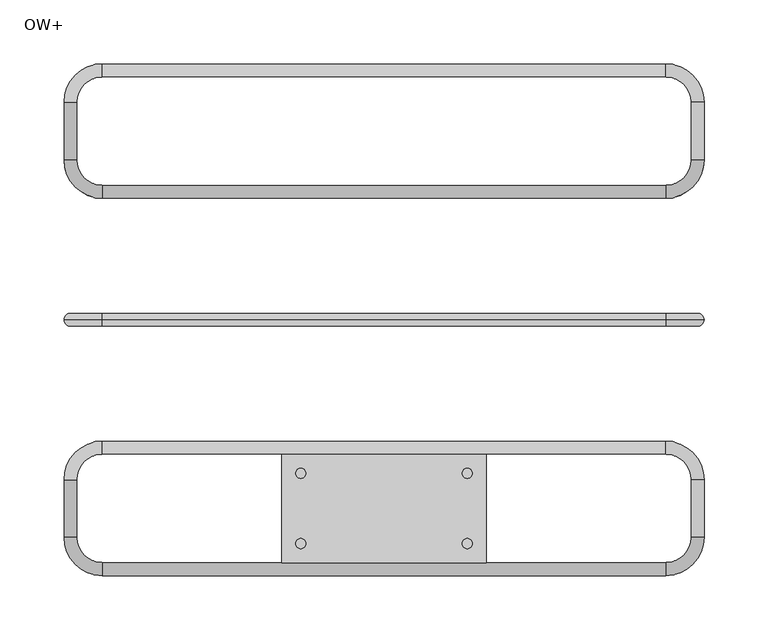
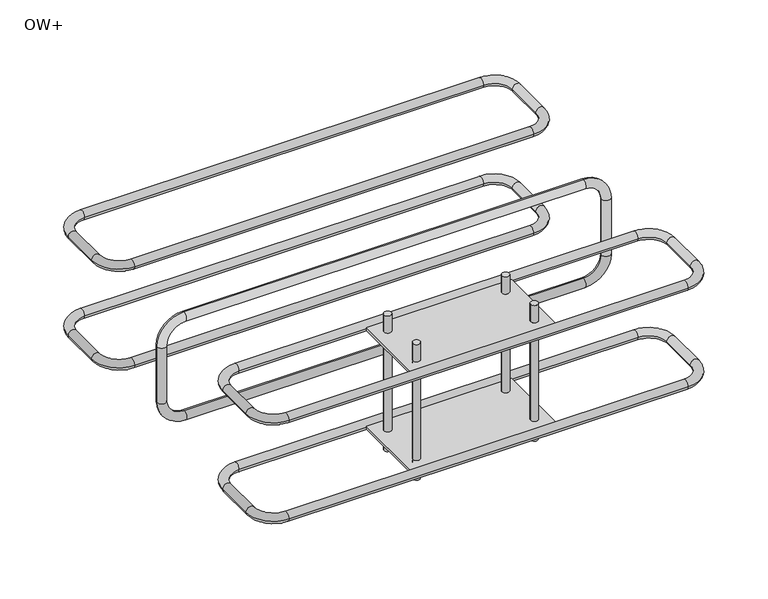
"""IFC4 building model written with IfcOpenShell, lengths in millimetres: fastener geometry, ACINOXplus_Typenreihe_UW-OW : OW+."""

from ifc_helpers import new_model, si_unit, point, frame, origin, place, context, project, spatial, circle_curve, ellipse_curve, trimmed, source, transform, mapped, element, save
from ifc_brep_helpers import plane_surface, cylinder_surface, revolved_surface, advanced_brep


def ow_7e9b7258(model_context):
    return source(origin(), model_context, "Body", "AdvancedBrep", [
        advanced_brep(
        [(220.0, 0.0, -47.5), (220.0, 0.0, -37.5), (-220.0, 0.0, -37.5), (-220.0, 0.0, -47.5), (-240.0, 0.0, -67.5), (-250.0, 0.0, -67.5), (-250.0, 0.0, -132.5), (-240.0, 0.0, -132.5), (-220.0, 0.0, -152.5), (-220.0, 0.0, -162.5), (220.0, 0.0, -162.5), (220.0, 0.0, -152.5), (240.0, 0.0, -132.5), (250.0, 0.0, -132.5), (250.0, 0.0, -67.5), (240.0, 0.0, -67.5)],
        [
            (0, 1, circle_curve(frame((220.0, 0.0, -42.5), z_axis=(-1.0, 0.0, 0.0), x_axis=(0.0, 0.0, -1.0)), 5.0)),
            (1, 2),
            (2, 3, circle_curve(frame((-220.0, 0.0, -42.5), z_axis=(1.0, 0.0, 0.0), x_axis=(0.0, 0.0, -1.0)), 5.0)),
            (3, 0),
            (1, 0, circle_curve(frame((220.0, 0.0, -42.5), z_axis=(-1.0, 0.0, 0.0), x_axis=(0.0, 0.0, -1.0)), 5.0)),
            (3, 2, circle_curve(frame((-220.0, 0.0, -42.5), z_axis=(1.0, 0.0, 0.0), x_axis=(0.0, 0.0, -1.0)), 5.0)),
            (4, 3, circle_curve(frame((-220.0, 0.0, -67.5), z_axis=(0.0, 1.0, 0.0), x_axis=(0.0, 0.0, 1.0)), 20.0)),
            (2, 5, circle_curve(frame((-220.0, 0.0, -67.5), z_axis=(0.0, -1.0, 0.0), x_axis=(0.0, 0.0, 1.0)), 30.0)),
            (5, 4, circle_curve(frame((-245.0, 0.0, -67.5), z_axis=(0.0, 0.0, 1.0), x_axis=(1.0, 0.0, 0.0)), 5.0)),
            (4, 5, circle_curve(frame((-245.0, 0.0, -67.5), z_axis=(0.0, 0.0, 1.0), x_axis=(1.0, 0.0, 0.0)), 5.0)),
            (5, 6),
            (6, 7, circle_curve(frame((-245.0, 0.0, -132.5), z_axis=(0.0, 0.0, 1.0), x_axis=(1.0, 0.0, 0.0)), 5.0)),
            (7, 4),
            (7, 6, circle_curve(frame((-245.0, 0.0, -132.5), z_axis=(0.0, 0.0, 1.0), x_axis=(1.0, 0.0, 0.0)), 5.0)),
            (8, 7, circle_curve(frame((-220.0, 0.0, -132.5), z_axis=(0.0, 1.0, 0.0), x_axis=(-1.0, 0.0, 0.0)), 20.0)),
            (6, 9, circle_curve(frame((-220.0, 0.0, -132.5), z_axis=(0.0, -1.0, 0.0), x_axis=(-1.0, 0.0, 0.0)), 30.0)),
            (9, 8, circle_curve(frame((-220.0, 0.0, -157.5), z_axis=(-1.0, 0.0, 0.0), x_axis=(0.0, 0.0, 1.0)), 5.0)),
            (8, 9, circle_curve(frame((-220.0, 0.0, -157.5), z_axis=(-1.0, 0.0, 0.0), x_axis=(0.0, 0.0, 1.0)), 5.0)),
            (9, 10),
            (10, 11, circle_curve(frame((220.0, 0.0, -157.5), z_axis=(-1.0, 0.0, 0.0), x_axis=(0.0, 0.0, 1.0)), 5.0)),
            (11, 8),
            (11, 10, circle_curve(frame((220.0, 0.0, -157.5), z_axis=(-1.0, 0.0, 0.0), x_axis=(0.0, 0.0, 1.0)), 5.0)),
            (12, 11, circle_curve(frame((220.0, 0.0, -132.5), z_axis=(0.0, 1.0, 0.0), x_axis=(0.0, 0.0, -1.0)), 20.0)),
            (10, 13, circle_curve(frame((220.0, 0.0, -132.5), z_axis=(0.0, -1.0, 0.0), x_axis=(0.0, 0.0, -1.0)), 30.0)),
            (13, 12, circle_curve(frame((245.0, 0.0, -132.5), z_axis=(0.0, 0.0, -1.0), x_axis=(-1.0, 0.0, 0.0)), 5.0)),
            (12, 13, circle_curve(frame((245.0, 0.0, -132.5), z_axis=(0.0, 0.0, -1.0), x_axis=(-1.0, 0.0, 0.0)), 5.0)),
            (13, 14),
            (14, 15, circle_curve(frame((245.0, 0.0, -67.5), z_axis=(0.0, 0.0, -1.0), x_axis=(-1.0, 0.0, 0.0)), 5.0)),
            (15, 12),
            (15, 14, circle_curve(frame((245.0, 0.0, -67.5), z_axis=(0.0, 0.0, -1.0), x_axis=(-1.0, 0.0, 0.0)), 5.0)),
            (0, 15, circle_curve(frame((220.0, 0.0, -67.5), z_axis=(0.0, 1.0, 0.0), x_axis=(1.0, 0.0, 0.0)), 20.0)),
            (14, 1, circle_curve(frame((220.0, 0.0, -67.5), z_axis=(0.0, -1.0, 0.0), x_axis=(1.0, 0.0, 0.0)), 30.0)),
        ],
        [
            cylinder_surface(frame((220.0, 0.0, -42.5), z_axis=(1.0, 0.0, 0.0), x_axis=(0.0, 0.0, -1.0)), 5.0),
            revolved_surface(trimmed(ellipse_curve(frame((-220.0, 0.0, -42.5), z_axis=(1.0, 0.0, 0.0), x_axis=(0.0, 0.0, -1.0)), 5.0, 5.0), [point((-220.0, 0.0, -37.5))], [point((-220.0, 0.0, -47.5))], True, "CARTESIAN"), (-220.0, 0.0, -67.5), (0.0, -1.0, 0.0)),
            revolved_surface(trimmed(ellipse_curve(frame((-220.0, 0.0, -42.5), z_axis=(1.0, 0.0, 0.0), x_axis=(0.0, 0.0, -1.0)), 5.0, 5.0), [point((-220.0, 0.0, -47.5))], [point((-220.0, 0.0, -37.5))], True, "CARTESIAN"), (-220.0, 0.0, -67.5), (0.0, -1.0, 0.0)),
            cylinder_surface(frame((-245.0, 0.0, -67.5), z_axis=(0.0, 0.0, 1.0), x_axis=(1.0, 0.0, 0.0)), 5.0),
            revolved_surface(trimmed(ellipse_curve(frame((-245.0, 0.0, -132.5), z_axis=(0.0, 0.0, 1.0), x_axis=(1.0, 0.0, 0.0)), 5.0, 5.0), [point((-250.0, 0.0, -132.5))], [point((-240.0, 0.0, -132.5))], True, "CARTESIAN"), (-220.0, 0.0, -132.5), (0.0, -1.0, 0.0)),
            revolved_surface(trimmed(ellipse_curve(frame((-245.0, 0.0, -132.5), z_axis=(0.0, 0.0, 1.0), x_axis=(1.0, 0.0, 0.0)), 5.0, 5.0), [point((-240.0, 0.0, -132.5))], [point((-250.0, 0.0, -132.5))], True, "CARTESIAN"), (-220.0, 0.0, -132.5), (0.0, -1.0, 0.0)),
            cylinder_surface(frame((-220.0, 0.0, -157.5), z_axis=(-1.0, 0.0, 0.0), x_axis=(0.0, 0.0, 1.0)), 5.0),
            revolved_surface(trimmed(ellipse_curve(frame((220.0, 0.0, -157.5), z_axis=(-1.0, 0.0, 0.0), x_axis=(0.0, 0.0, 1.0)), 5.0, 5.0), [point((220.0, 0.0, -162.5))], [point((220.0, 0.0, -152.5))], True, "CARTESIAN"), (220.0, 0.0, -132.5), (0.0, -1.0, 0.0)),
            revolved_surface(trimmed(ellipse_curve(frame((220.0, 0.0, -157.5), z_axis=(-1.0, 0.0, 0.0), x_axis=(0.0, 0.0, 1.0)), 5.0, 5.0), [point((220.0, 0.0, -152.5))], [point((220.0, 0.0, -162.5))], True, "CARTESIAN"), (220.0, 0.0, -132.5), (0.0, -1.0, 0.0)),
            cylinder_surface(frame((245.0, 0.0, -132.5), z_axis=(0.0, 0.0, -1.0), x_axis=(-1.0, 0.0, 0.0)), 5.0),
            revolved_surface(trimmed(ellipse_curve(frame((245.0, 0.0, -67.5), z_axis=(0.0, 0.0, -1.0), x_axis=(-1.0, 0.0, 0.0)), 5.0, 5.0), [point((250.0, 0.0, -67.5))], [point((240.0, 0.0, -67.5))], True, "CARTESIAN"), (220.0, 0.0, -67.5), (0.0, -1.0, 0.0)),
            revolved_surface(trimmed(ellipse_curve(frame((245.0, 0.0, -67.5), z_axis=(0.0, 0.0, -1.0), x_axis=(-1.0, 0.0, 0.0)), 5.0, 5.0), [point((240.0, 0.0, -67.5))], [point((250.0, 0.0, -67.5))], True, "CARTESIAN"), (220.0, 0.0, -67.5), (0.0, -1.0, 0.0)),
        ],
        [
            (0, [[1, 2, 3, 4]]),
            (0, [[5, -4, 6, -2]]),
            (1, [[7, -3, 8, 9]]),
            (2, [[-8, -6, -7, 10]]),
            (3, [[-9, 11, 12, 13]]),
            (3, [[-10, -13, 14, -11]]),
            (4, [[15, -12, 16, 17]]),
            (5, [[-16, -14, -15, 18]]),
            (6, [[-17, 19, 20, 21]]),
            (6, [[-18, -21, 22, -19]]),
            (7, [[23, -20, 24, 25]]),
            (8, [[-24, -22, -23, 26]]),
            (9, [[-25, 27, 28, 29]]),
            (9, [[-26, -29, 30, -27]]),
            (10, [[31, -28, 32, -1]]),
            (11, [[-32, -30, -31, -5]]),
        ],
    ),
        advanced_brep(
        [(-220.0, -190.0, -42.5), (-240.0, -170.0, -42.5), (-250.0, -170.0, -42.5), (-220.0, -200.0, -42.5), (220.0, -200.0, -42.5), (220.0, -190.0, -42.5), (240.0, -170.0, -42.5), (250.0, -170.0, -42.5), (250.0, -125.0, -42.5), (240.0, -125.0, -42.5), (220.0, -105.0, -42.5), (220.0, -95.0, -42.5), (-220.0, -95.0, -42.5), (-220.0, -105.0, -42.5), (-240.0, -125.0, -42.5), (-250.0, -125.0, -42.5)],
        [
            (0, 1, circle_curve(frame((-220.0, -170.0, -42.5), z_axis=(0.0, 0.0, -1.0), x_axis=(-1.0, 0.0, 0.0)), 20.0)),
            (1, 2, circle_curve(frame((-245.0, -170.0, -42.5), z_axis=(0.0, -1.0, 0.0), x_axis=(1.0, 0.0, 0.0)), 5.0)),
            (2, 3, circle_curve(frame((-220.0, -170.0, -42.5), z_axis=(0.0, 0.0, 1.0), x_axis=(-1.0, 0.0, 0.0)), 30.0)),
            (3, 0, circle_curve(frame((-220.0, -195.0, -42.5), z_axis=(-1.0, 0.0, 0.0), x_axis=(0.0, 1.0, 0.0)), 5.0)),
            (2, 1, circle_curve(frame((-245.0, -170.0, -42.5), z_axis=(0.0, -1.0, 0.0), x_axis=(1.0, 0.0, 0.0)), 5.0)),
            (0, 3, circle_curve(frame((-220.0, -195.0, -42.5), z_axis=(-1.0, 0.0, 0.0), x_axis=(0.0, 1.0, 0.0)), 5.0)),
            (3, 4),
            (4, 5, circle_curve(frame((220.0, -195.0, -42.5), z_axis=(-1.0, 0.0, 0.0), x_axis=(0.0, 1.0, 0.0)), 5.0)),
            (5, 0),
            (5, 4, circle_curve(frame((220.0, -195.0, -42.5), z_axis=(-1.0, 0.0, 0.0), x_axis=(0.0, 1.0, 0.0)), 5.0)),
            (6, 5, circle_curve(frame((220.0, -170.0, -42.5), z_axis=(0.0, 0.0, -1.0), x_axis=(0.0, -1.0, 0.0)), 20.0)),
            (4, 7, circle_curve(frame((220.0, -170.0, -42.5), z_axis=(0.0, 0.0, 1.0), x_axis=(0.0, -1.0, 0.0)), 30.0)),
            (7, 6, circle_curve(frame((245.0, -170.0, -42.5), z_axis=(0.0, -1.0, 0.0), x_axis=(-1.0, 0.0, 0.0)), 5.0)),
            (6, 7, circle_curve(frame((245.0, -170.0, -42.5), z_axis=(0.0, -1.0, 0.0), x_axis=(-1.0, 0.0, 0.0)), 5.0)),
            (7, 8),
            (8, 9, circle_curve(frame((245.0, -125.0, -42.5), z_axis=(0.0, -1.0, 0.0), x_axis=(-1.0, 0.0, 0.0)), 5.0)),
            (9, 6),
            (9, 8, circle_curve(frame((245.0, -125.0, -42.5), z_axis=(0.0, -1.0, 0.0), x_axis=(-1.0, 0.0, 0.0)), 5.0)),
            (10, 9, circle_curve(frame((220.0, -125.0, -42.5), z_axis=(0.0, 0.0, -1.0), x_axis=(1.0, 0.0, 0.0)), 20.0)),
            (8, 11, circle_curve(frame((220.0, -125.0, -42.5), z_axis=(0.0, 0.0, 1.0), x_axis=(1.0, 0.0, 0.0)), 30.0)),
            (11, 10, circle_curve(frame((220.0, -100.0, -42.5), z_axis=(1.0, 0.0, 0.0), x_axis=(0.0, -1.0, 0.0)), 5.0)),
            (10, 11, circle_curve(frame((220.0, -100.0, -42.5), z_axis=(1.0, 0.0, 0.0), x_axis=(0.0, -1.0, 0.0)), 5.0)),
            (11, 12),
            (12, 13, circle_curve(frame((-220.0, -100.0, -42.5), z_axis=(1.0, 0.0, 0.0), x_axis=(0.0, -1.0, 0.0)), 5.0)),
            (13, 10),
            (13, 12, circle_curve(frame((-220.0, -100.0, -42.5), z_axis=(1.0, 0.0, 0.0), x_axis=(0.0, -1.0, 0.0)), 5.0)),
            (14, 13, circle_curve(frame((-220.0, -125.0, -42.5), z_axis=(0.0, 0.0, -1.0), x_axis=(0.0, 1.0, 0.0)), 20.0)),
            (12, 15, circle_curve(frame((-220.0, -125.0, -42.5), z_axis=(0.0, 0.0, 1.0), x_axis=(0.0, 1.0, 0.0)), 30.0)),
            (15, 14, circle_curve(frame((-245.0, -125.0, -42.5), z_axis=(0.0, 1.0, 0.0), x_axis=(1.0, 0.0, 0.0)), 5.0)),
            (14, 15, circle_curve(frame((-245.0, -125.0, -42.5), z_axis=(0.0, 1.0, 0.0), x_axis=(1.0, 0.0, 0.0)), 5.0)),
            (15, 2),
            (1, 14),
        ],
        [
            revolved_surface(trimmed(ellipse_curve(frame((-245.0, -170.0, -42.5), z_axis=(0.0, 1.0, 0.0), x_axis=(1.0, 0.0, 0.0)), 5.0, 5.0), [point((-250.0, -170.0, -42.5))], [point((-240.0, -170.0, -42.5))], True, "CARTESIAN"), (-220.0, -170.0, -42.5), (0.0, 0.0, 1.0)),
            revolved_surface(trimmed(ellipse_curve(frame((-245.0, -170.0, -42.5), z_axis=(0.0, 1.0, 0.0), x_axis=(1.0, 0.0, 0.0)), 5.0, 5.0), [point((-240.0, -170.0, -42.5))], [point((-250.0, -170.0, -42.5))], True, "CARTESIAN"), (-220.0, -170.0, -42.5), (0.0, 0.0, 1.0)),
            cylinder_surface(frame((-220.0, -195.0, -42.5), z_axis=(-1.0, 0.0, 0.0), x_axis=(0.0, 1.0, 0.0)), 5.0),
            revolved_surface(trimmed(ellipse_curve(frame((220.0, -195.0, -42.5), z_axis=(-1.0, 0.0, 0.0), x_axis=(0.0, 1.0, 0.0)), 5.0, 5.0), [point((220.0, -200.0, -42.5))], [point((220.0, -190.0, -42.5))], True, "CARTESIAN"), (220.0, -170.0, -42.5), (0.0, 0.0, 1.0)),
            revolved_surface(trimmed(ellipse_curve(frame((220.0, -195.0, -42.5), z_axis=(-1.0, 0.0, 0.0), x_axis=(0.0, 1.0, 0.0)), 5.0, 5.0), [point((220.0, -190.0, -42.5))], [point((220.0, -200.0, -42.5))], True, "CARTESIAN"), (220.0, -170.0, -42.5), (0.0, 0.0, 1.0)),
            cylinder_surface(frame((245.0, -170.0, -42.5), z_axis=(0.0, -1.0, 0.0), x_axis=(-1.0, 0.0, 0.0)), 5.0),
            revolved_surface(trimmed(ellipse_curve(frame((245.0, -125.0, -42.5), z_axis=(0.0, -1.0, 0.0), x_axis=(-1.0, 0.0, 0.0)), 5.0, 5.0), [point((250.0, -125.0, -42.5))], [point((240.0, -125.0, -42.5))], True, "CARTESIAN"), (220.0, -125.0, -42.5), (0.0, 0.0, 1.0)),
            revolved_surface(trimmed(ellipse_curve(frame((245.0, -125.0, -42.5), z_axis=(0.0, -1.0, 0.0), x_axis=(-1.0, 0.0, 0.0)), 5.0, 5.0), [point((240.0, -125.0, -42.5))], [point((250.0, -125.0, -42.5))], True, "CARTESIAN"), (220.0, -125.0, -42.5), (0.0, 0.0, 1.0)),
            cylinder_surface(frame((220.0, -100.0, -42.5), z_axis=(1.0, 0.0, 0.0), x_axis=(0.0, -1.0, 0.0)), 5.0),
            revolved_surface(trimmed(ellipse_curve(frame((-220.0, -100.0, -42.5), z_axis=(1.0, 0.0, 0.0), x_axis=(0.0, -1.0, 0.0)), 5.0, 5.0), [point((-220.0, -95.0, -42.5))], [point((-220.0, -105.0, -42.5))], True, "CARTESIAN"), (-220.0, -125.0, -42.5), (0.0, 0.0, 1.0)),
            revolved_surface(trimmed(ellipse_curve(frame((-220.0, -100.0, -42.5), z_axis=(1.0, 0.0, 0.0), x_axis=(0.0, -1.0, 0.0)), 5.0, 5.0), [point((-220.0, -105.0, -42.5))], [point((-220.0, -95.0, -42.5))], True, "CARTESIAN"), (-220.0, -125.0, -42.5), (0.0, 0.0, 1.0)),
            cylinder_surface(frame((-245.0, -125.0, -42.5), z_axis=(0.0, 1.0, 0.0), x_axis=(1.0, 0.0, 0.0)), 5.0),
        ],
        [
            (0, [[1, 2, 3, 4]]),
            (1, [[-3, 5, -1, 6]]),
            (2, [[-4, 7, 8, 9]]),
            (2, [[-6, -9, 10, -7]]),
            (3, [[11, -8, 12, 13]]),
            (4, [[-12, -10, -11, 14]]),
            (5, [[-13, 15, 16, 17]]),
            (5, [[-14, -17, 18, -15]]),
            (6, [[19, -16, 20, 21]]),
            (7, [[-20, -18, -19, 22]]),
            (8, [[-21, 23, 24, 25]]),
            (8, [[-22, -25, 26, -23]]),
            (9, [[27, -24, 28, 29]]),
            (10, [[-28, -26, -27, 30]]),
            (11, [[-29, 31, -2, 32]]),
            (11, [[-30, -32, -5, -31]]),
        ],
    ),
        advanced_brep(
        [(-220.0, -190.0, -157.5), (-240.0, -170.0, -157.5), (-250.0, -170.0, -157.5), (-220.0, -200.0, -157.5), (220.0, -200.0, -157.5), (220.0, -190.0, -157.5), (240.0, -170.0, -157.5), (250.0, -170.0, -157.5), (250.0, -125.0, -157.5), (240.0, -125.0, -157.5), (220.0, -105.0, -157.5), (220.0, -95.0, -157.5), (-220.0, -95.0, -157.5), (-220.0, -105.0, -157.5), (-240.0, -125.0, -157.5), (-250.0, -125.0, -157.5)],
        [
            (0, 1, circle_curve(frame((-220.0, -170.0, -157.5), z_axis=(0.0, 0.0, -1.0), x_axis=(-1.0, 0.0, 0.0)), 20.0)),
            (1, 2, circle_curve(frame((-245.0, -170.0, -157.5), z_axis=(0.0, -1.0, 0.0), x_axis=(1.0, 0.0, 0.0)), 5.0)),
            (2, 3, circle_curve(frame((-220.0, -170.0, -157.5), z_axis=(0.0, 0.0, 1.0), x_axis=(-1.0, 0.0, 0.0)), 30.0)),
            (3, 0, circle_curve(frame((-220.0, -195.0, -157.5), z_axis=(-1.0, 0.0, 0.0), x_axis=(0.0, 1.0, 0.0)), 5.0)),
            (2, 1, circle_curve(frame((-245.0, -170.0, -157.5), z_axis=(0.0, -1.0, 0.0), x_axis=(1.0, 0.0, 0.0)), 5.0)),
            (0, 3, circle_curve(frame((-220.0, -195.0, -157.5), z_axis=(-1.0, 0.0, 0.0), x_axis=(0.0, 1.0, 0.0)), 5.0)),
            (3, 4),
            (4, 5, circle_curve(frame((220.0, -195.0, -157.5), z_axis=(-1.0, 0.0, 0.0), x_axis=(0.0, 1.0, 0.0)), 5.0)),
            (5, 0),
            (5, 4, circle_curve(frame((220.0, -195.0, -157.5), z_axis=(-1.0, 0.0, 0.0), x_axis=(0.0, 1.0, 0.0)), 5.0)),
            (6, 5, circle_curve(frame((220.0, -170.0, -157.5), z_axis=(0.0, 0.0, -1.0), x_axis=(0.0, -1.0, 0.0)), 20.0)),
            (4, 7, circle_curve(frame((220.0, -170.0, -157.5), z_axis=(0.0, 0.0, 1.0), x_axis=(0.0, -1.0, 0.0)), 30.0)),
            (7, 6, circle_curve(frame((245.0, -170.0, -157.5), z_axis=(0.0, -1.0, 0.0), x_axis=(-1.0, 0.0, 0.0)), 5.0)),
            (6, 7, circle_curve(frame((245.0, -170.0, -157.5), z_axis=(0.0, -1.0, 0.0), x_axis=(-1.0, 0.0, 0.0)), 5.0)),
            (7, 8),
            (8, 9, circle_curve(frame((245.0, -125.0, -157.5), z_axis=(0.0, -1.0, 0.0), x_axis=(-1.0, 0.0, 0.0)), 5.0)),
            (9, 6),
            (9, 8, circle_curve(frame((245.0, -125.0, -157.5), z_axis=(0.0, -1.0, 0.0), x_axis=(-1.0, 0.0, 0.0)), 5.0)),
            (10, 9, circle_curve(frame((220.0, -125.0, -157.5), z_axis=(0.0, 0.0, -1.0), x_axis=(1.0, 0.0, 0.0)), 20.0)),
            (8, 11, circle_curve(frame((220.0, -125.0, -157.5), z_axis=(0.0, 0.0, 1.0), x_axis=(1.0, 0.0, 0.0)), 30.0)),
            (11, 10, circle_curve(frame((220.0, -100.0, -157.5), z_axis=(1.0, 0.0, 0.0), x_axis=(0.0, -1.0, 0.0)), 5.0)),
            (10, 11, circle_curve(frame((220.0, -100.0, -157.5), z_axis=(1.0, 0.0, 0.0), x_axis=(0.0, -1.0, 0.0)), 5.0)),
            (11, 12),
            (12, 13, circle_curve(frame((-220.0, -100.0, -157.5), z_axis=(1.0, 0.0, 0.0), x_axis=(0.0, -1.0, 0.0)), 5.0)),
            (13, 10),
            (13, 12, circle_curve(frame((-220.0, -100.0, -157.5), z_axis=(1.0, 0.0, 0.0), x_axis=(0.0, -1.0, 0.0)), 5.0)),
            (14, 13, circle_curve(frame((-220.0, -125.0, -157.5), z_axis=(0.0, 0.0, -1.0), x_axis=(0.0, 1.0, 0.0)), 20.0)),
            (12, 15, circle_curve(frame((-220.0, -125.0, -157.5), z_axis=(0.0, 0.0, 1.0), x_axis=(0.0, 1.0, 0.0)), 30.0)),
            (15, 14, circle_curve(frame((-245.0, -125.0, -157.5), z_axis=(0.0, 1.0, 0.0), x_axis=(1.0, 0.0, 0.0)), 5.0)),
            (14, 15, circle_curve(frame((-245.0, -125.0, -157.5), z_axis=(0.0, 1.0, 0.0), x_axis=(1.0, 0.0, 0.0)), 5.0)),
            (15, 2),
            (1, 14),
        ],
        [
            revolved_surface(trimmed(ellipse_curve(frame((-245.0, -170.0, -157.5), z_axis=(0.0, 1.0, 0.0), x_axis=(1.0, 0.0, 0.0)), 5.0, 5.0), [point((-250.0, -170.0, -157.5))], [point((-240.0, -170.0, -157.5))], True, "CARTESIAN"), (-220.0, -170.0, -157.5), (0.0, 0.0, 1.0)),
            revolved_surface(trimmed(ellipse_curve(frame((-245.0, -170.0, -157.5), z_axis=(0.0, 1.0, 0.0), x_axis=(1.0, 0.0, 0.0)), 5.0, 5.0), [point((-240.0, -170.0, -157.5))], [point((-250.0, -170.0, -157.5))], True, "CARTESIAN"), (-220.0, -170.0, -157.5), (0.0, 0.0, 1.0)),
            cylinder_surface(frame((-220.0, -195.0, -157.5), z_axis=(-1.0, 0.0, 0.0), x_axis=(0.0, 1.0, 0.0)), 5.0),
            revolved_surface(trimmed(ellipse_curve(frame((220.0, -195.0, -157.5), z_axis=(-1.0, 0.0, 0.0), x_axis=(0.0, 1.0, 0.0)), 5.0, 5.0), [point((220.0, -200.0, -157.5))], [point((220.0, -190.0, -157.5))], True, "CARTESIAN"), (220.0, -170.0, -157.5), (0.0, 0.0, 1.0)),
            revolved_surface(trimmed(ellipse_curve(frame((220.0, -195.0, -157.5), z_axis=(-1.0, 0.0, 0.0), x_axis=(0.0, 1.0, 0.0)), 5.0, 5.0), [point((220.0, -190.0, -157.5))], [point((220.0, -200.0, -157.5))], True, "CARTESIAN"), (220.0, -170.0, -157.5), (0.0, 0.0, 1.0)),
            cylinder_surface(frame((245.0, -170.0, -157.5), z_axis=(0.0, -1.0, 0.0), x_axis=(-1.0, 0.0, 0.0)), 5.0),
            revolved_surface(trimmed(ellipse_curve(frame((245.0, -125.0, -157.5), z_axis=(0.0, -1.0, 0.0), x_axis=(-1.0, 0.0, 0.0)), 5.0, 5.0), [point((250.0, -125.0, -157.5))], [point((240.0, -125.0, -157.5))], True, "CARTESIAN"), (220.0, -125.0, -157.5), (0.0, 0.0, 1.0)),
            revolved_surface(trimmed(ellipse_curve(frame((245.0, -125.0, -157.5), z_axis=(0.0, -1.0, 0.0), x_axis=(-1.0, 0.0, 0.0)), 5.0, 5.0), [point((240.0, -125.0, -157.5))], [point((250.0, -125.0, -157.5))], True, "CARTESIAN"), (220.0, -125.0, -157.5), (0.0, 0.0, 1.0)),
            cylinder_surface(frame((220.0, -100.0, -157.5), z_axis=(1.0, 0.0, 0.0), x_axis=(0.0, -1.0, 0.0)), 5.0),
            revolved_surface(trimmed(ellipse_curve(frame((-220.0, -100.0, -157.5), z_axis=(1.0, 0.0, 0.0), x_axis=(0.0, -1.0, 0.0)), 5.0, 5.0), [point((-220.0, -95.0, -157.5))], [point((-220.0, -105.0, -157.5))], True, "CARTESIAN"), (-220.0, -125.0, -157.5), (0.0, 0.0, 1.0)),
            revolved_surface(trimmed(ellipse_curve(frame((-220.0, -100.0, -157.5), z_axis=(1.0, 0.0, 0.0), x_axis=(0.0, -1.0, 0.0)), 5.0, 5.0), [point((-220.0, -105.0, -157.5))], [point((-220.0, -95.0, -157.5))], True, "CARTESIAN"), (-220.0, -125.0, -157.5), (0.0, 0.0, 1.0)),
            cylinder_surface(frame((-245.0, -125.0, -157.5), z_axis=(0.0, 1.0, 0.0), x_axis=(1.0, 0.0, 0.0)), 5.0),
        ],
        [
            (0, [[1, 2, 3, 4]]),
            (1, [[-3, 5, -1, 6]]),
            (2, [[-4, 7, 8, 9]]),
            (2, [[-6, -9, 10, -7]]),
            (3, [[11, -8, 12, 13]]),
            (4, [[-12, -10, -11, 14]]),
            (5, [[-13, 15, 16, 17]]),
            (5, [[-14, -17, 18, -15]]),
            (6, [[19, -16, 20, 21]]),
            (7, [[-20, -18, -19, 22]]),
            (8, [[-21, 23, 24, 25]]),
            (8, [[-22, -25, 26, -23]]),
            (9, [[27, -24, 28, 29]]),
            (10, [[-28, -26, -27, 30]]),
            (11, [[-29, 31, -2, 32]]),
            (11, [[-30, -32, -5, -31]]),
        ],
    ),
        advanced_brep(
        [(80.0, -105.0, -41.0), (-80.0, -105.0, -41.0), (-80.0, -190.0, -41.0), (80.0, -190.0, -41.0), (-61.0, -120.0, -41.0), (-69.0, -120.0, -41.0), (69.0, -120.0, -41.0), (61.0, -120.0, -41.0), (-61.0, -175.0, -41.0), (-69.0, -175.0, -41.0), (69.0, -175.0, -41.0), (61.0, -175.0, -41.0), (80.0, -105.0, -44.0), (80.0, -190.0, -44.0), (-80.0, -190.0, -44.0), (-80.0, -105.0, -44.0), (-69.0, -120.0, -44.0), (-61.0, -120.0, -44.0), (61.0, -120.0, -44.0), (69.0, -120.0, -44.0), (-69.0, -175.0, -44.0), (-61.0, -175.0, -44.0), (61.0, -175.0, -44.0), (69.0, -175.0, -44.0), (-69.0, -120.0, -21.0), (-61.0, -120.0, -21.0), (61.0, -120.0, -21.0), (69.0, -120.0, -21.0), (-69.0, -175.0, -21.0), (-61.0, -175.0, -21.0), (61.0, -175.0, -21.0), (69.0, -175.0, -21.0), (-69.0, -120.0, -179.0), (-61.0, -120.0, -179.0), (61.0, -120.0, -179.0), (69.0, -120.0, -179.0), (-69.0, -175.0, -179.0), (-61.0, -175.0, -179.0), (61.0, -175.0, -179.0), (69.0, -175.0, -179.0), (-69.0, -120.0, -156.0), (-61.0, -120.0, -156.0), (-61.0, -120.0, -159.0), (-69.0, -120.0, -159.0), (61.0, -120.0, -156.0), (69.0, -120.0, -156.0), (69.0, -120.0, -159.0), (61.0, -120.0, -159.0), (-69.0, -175.0, -156.0), (-61.0, -175.0, -156.0), (-61.0, -175.0, -159.0), (-69.0, -175.0, -159.0), (61.0, -175.0, -156.0), (69.0, -175.0, -156.0), (69.0, -175.0, -159.0), (61.0, -175.0, -159.0), (80.0, -105.0, -156.0), (-80.0, -105.0, -156.0), (-80.0, -190.0, -156.0), (80.0, -190.0, -156.0), (80.0, -105.0, -159.0), (80.0, -190.0, -159.0), (-80.0, -190.0, -159.0), (-80.0, -105.0, -159.0)],
        [
            (0, 1),
            (1, 2),
            (2, 3),
            (3, 0),
            (4, 5, circle_curve(frame((-65.0, -120.0, -41.0), z_axis=(0.0, 0.0, -1.0), x_axis=(1.0, 0.0, 0.0)), 4.0)),
            (5, 4, circle_curve(frame((-65.0, -120.0, -41.0), z_axis=(0.0, 0.0, -1.0), x_axis=(1.0, 0.0, 0.0)), 4.0)),
            (6, 7, circle_curve(frame((65.0, -120.0, -41.0), z_axis=(0.0, 0.0, -1.0), x_axis=(1.0, 0.0, 0.0)), 4.0)),
            (7, 6, circle_curve(frame((65.0, -120.0, -41.0), z_axis=(0.0, 0.0, -1.0), x_axis=(1.0, 0.0, 0.0)), 4.0)),
            (8, 9, circle_curve(frame((-65.0, -175.0, -41.0), z_axis=(0.0, 0.0, -1.0), x_axis=(1.0, 0.0, 0.0)), 4.0)),
            (9, 8, circle_curve(frame((-65.0, -175.0, -41.0), z_axis=(0.0, 0.0, -1.0), x_axis=(1.0, 0.0, 0.0)), 4.0)),
            (10, 11, circle_curve(frame((65.0, -175.0, -41.0), z_axis=(0.0, 0.0, -1.0), x_axis=(1.0, 0.0, 0.0)), 4.0)),
            (11, 10, circle_curve(frame((65.0, -175.0, -41.0), z_axis=(0.0, 0.0, -1.0), x_axis=(1.0, 0.0, 0.0)), 4.0)),
            (12, 13),
            (13, 14),
            (14, 15),
            (15, 12),
            (16, 17, circle_curve(frame((-65.0, -120.0, -44.0), z_axis=(0.0, 0.0, 1.0), x_axis=(1.0, 0.0, 0.0)), 4.0)),
            (17, 16, circle_curve(frame((-65.0, -120.0, -44.0), z_axis=(0.0, 0.0, 1.0), x_axis=(1.0, 0.0, 0.0)), 4.0)),
            (18, 19, circle_curve(frame((65.0, -120.0, -44.0), z_axis=(0.0, 0.0, 1.0), x_axis=(1.0, 0.0, 0.0)), 4.0)),
            (19, 18, circle_curve(frame((65.0, -120.0, -44.0), z_axis=(0.0, 0.0, 1.0), x_axis=(1.0, 0.0, 0.0)), 4.0)),
            (20, 21, circle_curve(frame((-65.0, -175.0, -44.0), z_axis=(0.0, 0.0, 1.0), x_axis=(1.0, 0.0, 0.0)), 4.0)),
            (21, 20, circle_curve(frame((-65.0, -175.0, -44.0), z_axis=(0.0, 0.0, 1.0), x_axis=(1.0, 0.0, 0.0)), 4.0)),
            (22, 23, circle_curve(frame((65.0, -175.0, -44.0), z_axis=(0.0, 0.0, 1.0), x_axis=(1.0, 0.0, 0.0)), 4.0)),
            (23, 22, circle_curve(frame((65.0, -175.0, -44.0), z_axis=(0.0, 0.0, 1.0), x_axis=(1.0, 0.0, 0.0)), 4.0)),
            (0, 12),
            (15, 1),
            (14, 2),
            (13, 3),
            (24, 25, circle_curve(frame((-65.0, -120.0, -21.0), z_axis=(0.0, 0.0, 1.0), x_axis=(1.0, 0.0, 0.0)), 4.0)),
            (25, 24, circle_curve(frame((-65.0, -120.0, -21.0), z_axis=(0.0, 0.0, 1.0), x_axis=(1.0, 0.0, 0.0)), 4.0)),
            (26, 27, circle_curve(frame((65.0, -120.0, -21.0), z_axis=(0.0, 0.0, 1.0), x_axis=(1.0, 0.0, 0.0)), 4.0)),
            (27, 26, circle_curve(frame((65.0, -120.0, -21.0), z_axis=(0.0, 0.0, 1.0), x_axis=(1.0, 0.0, 0.0)), 4.0)),
            (28, 29, circle_curve(frame((-65.0, -175.0, -21.0), z_axis=(0.0, 0.0, 1.0), x_axis=(1.0, 0.0, 0.0)), 4.0)),
            (29, 28, circle_curve(frame((-65.0, -175.0, -21.0), z_axis=(0.0, 0.0, 1.0), x_axis=(1.0, 0.0, 0.0)), 4.0)),
            (30, 31, circle_curve(frame((65.0, -175.0, -21.0), z_axis=(0.0, 0.0, 1.0), x_axis=(1.0, 0.0, 0.0)), 4.0)),
            (31, 30, circle_curve(frame((65.0, -175.0, -21.0), z_axis=(0.0, 0.0, 1.0), x_axis=(1.0, 0.0, 0.0)), 4.0)),
            (32, 33, circle_curve(frame((-65.0, -120.0, -179.0), z_axis=(0.0, 0.0, -1.0), x_axis=(1.0, 0.0, 0.0)), 4.0)),
            (33, 32, circle_curve(frame((-65.0, -120.0, -179.0), z_axis=(0.0, 0.0, -1.0), x_axis=(1.0, 0.0, 0.0)), 4.0)),
            (34, 35, circle_curve(frame((65.0, -120.0, -179.0), z_axis=(0.0, 0.0, -1.0), x_axis=(1.0, 0.0, 0.0)), 4.0)),
            (35, 34, circle_curve(frame((65.0, -120.0, -179.0), z_axis=(0.0, 0.0, -1.0), x_axis=(1.0, 0.0, 0.0)), 4.0)),
            (36, 37, circle_curve(frame((-65.0, -175.0, -179.0), z_axis=(0.0, 0.0, -1.0), x_axis=(1.0, 0.0, 0.0)), 4.0)),
            (37, 36, circle_curve(frame((-65.0, -175.0, -179.0), z_axis=(0.0, 0.0, -1.0), x_axis=(1.0, 0.0, 0.0)), 4.0)),
            (38, 39, circle_curve(frame((65.0, -175.0, -179.0), z_axis=(0.0, 0.0, -1.0), x_axis=(1.0, 0.0, 0.0)), 4.0)),
            (39, 38, circle_curve(frame((65.0, -175.0, -179.0), z_axis=(0.0, 0.0, -1.0), x_axis=(1.0, 0.0, 0.0)), 4.0)),
            (16, 40),
            (40, 41, circle_curve(frame((-65.0, -120.0, -156.0), z_axis=(0.0, 0.0, 1.0), x_axis=(1.0, 0.0, 0.0)), 4.0)),
            (41, 17),
            (24, 5),
            (4, 25),
            (33, 42),
            (42, 43, circle_curve(frame((-65.0, -120.0, -159.0), z_axis=(0.0, 0.0, -1.0), x_axis=(1.0, 0.0, 0.0)), 4.0)),
            (43, 32),
            (41, 40, circle_curve(frame((-65.0, -120.0, -156.0), z_axis=(0.0, 0.0, 1.0), x_axis=(1.0, 0.0, 0.0)), 4.0)),
            (43, 42, circle_curve(frame((-65.0, -120.0, -159.0), z_axis=(0.0, 0.0, -1.0), x_axis=(1.0, 0.0, 0.0)), 4.0)),
            (18, 44),
            (44, 45, circle_curve(frame((65.0, -120.0, -156.0), z_axis=(0.0, 0.0, 1.0), x_axis=(1.0, 0.0, 0.0)), 4.0)),
            (45, 19),
            (26, 7),
            (6, 27),
            (35, 46),
            (46, 47, circle_curve(frame((65.0, -120.0, -159.0), z_axis=(0.0, 0.0, -1.0), x_axis=(1.0, 0.0, 0.0)), 4.0)),
            (47, 34),
            (45, 44, circle_curve(frame((65.0, -120.0, -156.0), z_axis=(0.0, 0.0, 1.0), x_axis=(1.0, 0.0, 0.0)), 4.0)),
            (47, 46, circle_curve(frame((65.0, -120.0, -159.0), z_axis=(0.0, 0.0, -1.0), x_axis=(1.0, 0.0, 0.0)), 4.0)),
            (20, 48),
            (48, 49, circle_curve(frame((-65.0, -175.0, -156.0), z_axis=(0.0, 0.0, 1.0), x_axis=(1.0, 0.0, 0.0)), 4.0)),
            (49, 21),
            (28, 9),
            (8, 29),
            (37, 50),
            (50, 51, circle_curve(frame((-65.0, -175.0, -159.0), z_axis=(0.0, 0.0, -1.0), x_axis=(1.0, 0.0, 0.0)), 4.0)),
            (51, 36),
            (49, 48, circle_curve(frame((-65.0, -175.0, -156.0), z_axis=(0.0, 0.0, 1.0), x_axis=(1.0, 0.0, 0.0)), 4.0)),
            (51, 50, circle_curve(frame((-65.0, -175.0, -159.0), z_axis=(0.0, 0.0, -1.0), x_axis=(1.0, 0.0, 0.0)), 4.0)),
            (22, 52),
            (52, 53, circle_curve(frame((65.0, -175.0, -156.0), z_axis=(0.0, 0.0, 1.0), x_axis=(1.0, 0.0, 0.0)), 4.0)),
            (53, 23),
            (30, 11),
            (10, 31),
            (39, 54),
            (54, 55, circle_curve(frame((65.0, -175.0, -159.0), z_axis=(0.0, 0.0, -1.0), x_axis=(1.0, 0.0, 0.0)), 4.0)),
            (55, 38),
            (53, 52, circle_curve(frame((65.0, -175.0, -156.0), z_axis=(0.0, 0.0, 1.0), x_axis=(1.0, 0.0, 0.0)), 4.0)),
            (55, 54, circle_curve(frame((65.0, -175.0, -159.0), z_axis=(0.0, 0.0, -1.0), x_axis=(1.0, 0.0, 0.0)), 4.0)),
            (56, 57),
            (57, 58),
            (58, 59),
            (59, 56),
            (60, 61),
            (61, 62),
            (62, 63),
            (63, 60),
            (56, 60),
            (63, 57),
            (62, 58),
            (61, 59),
        ],
        [
            plane_surface(frame((-80.0, -105.0, -41.0), z_axis=(0.0, 0.0, 1.0), x_axis=(-1.0, 0.0, 0.0))),
            plane_surface(frame((-80.0, -105.0, -44.0), z_axis=(0.0, 0.0, -1.0), x_axis=(1.0, 0.0, 0.0))),
            plane_surface(frame((80.0, -105.0, -41.0), z_axis=(0.0, 1.0, 0.0), x_axis=(0.0, 0.0, -1.0))),
            plane_surface(frame((-80.0, -105.0, -41.0), z_axis=(-1.0, 0.0, 0.0), x_axis=(0.0, 0.0, -1.0))),
            plane_surface(frame((-80.0, -190.0, -41.0), z_axis=(0.0, -1.0, 0.0), x_axis=(0.0, 0.0, -1.0))),
            plane_surface(frame((80.0, -190.0, -41.0), z_axis=(1.0, 0.0, 0.0), x_axis=(0.0, 0.0, -1.0))),
            plane_surface(frame((-61.0, -120.0, -21.0), z_axis=(0.0, 0.0, 1.0), x_axis=(0.0, 1.0, 0.0))),
            plane_surface(frame((-61.0, -120.0, -179.0), z_axis=(0.0, 0.0, -1.0), x_axis=(0.0, -1.0, 0.0))),
            cylinder_surface(frame((-65.0, -120.0, -179.0), z_axis=(0.0, 0.0, 1.0), x_axis=(1.0, 0.0, 0.0)), 4.0),
            cylinder_surface(frame((65.0, -120.0, -162.5), z_axis=(0.0, 0.0, 1.0), x_axis=(1.0, 0.0, 0.0)), 4.0),
            cylinder_surface(frame((-65.0, -175.0, -162.5), z_axis=(0.0, 0.0, 1.0), x_axis=(1.0, 0.0, 0.0)), 4.0),
            cylinder_surface(frame((65.0, -175.0, -162.5), z_axis=(0.0, 0.0, 1.0), x_axis=(1.0, 0.0, 0.0)), 4.0),
            plane_surface(frame((-80.0, -105.0, -156.0), z_axis=(0.0, 0.0, 1.0), x_axis=(-1.0, 0.0, 0.0))),
            plane_surface(frame((-80.0, -105.0, -159.0), z_axis=(0.0, 0.0, -1.0), x_axis=(1.0, 0.0, 0.0))),
            plane_surface(frame((80.0, -105.0, -156.0), z_axis=(0.0, 1.0, 0.0), x_axis=(0.0, 0.0, -1.0))),
            plane_surface(frame((-80.0, -105.0, -156.0), z_axis=(-1.0, 0.0, 0.0), x_axis=(0.0, 0.0, -1.0))),
            plane_surface(frame((-80.0, -190.0, -156.0), z_axis=(0.0, -1.0, 0.0), x_axis=(0.0, 0.0, -1.0))),
            plane_surface(frame((80.0, -190.0, -156.0), z_axis=(1.0, 0.0, 0.0), x_axis=(0.0, 0.0, -1.0))),
        ],
        [
            (0, [[1, 2, 3, 4], [5, 6], [7, 8], [9, 10], [11, 12]]),
            (1, [[13, 14, 15, 16], [17, 18], [19, 20], [21, 22], [23, 24]]),
            (2, [[-1, 25, -16, 26]]),
            (3, [[-2, -26, -15, 27]]),
            (4, [[-3, -27, -14, 28]]),
            (5, [[-4, -28, -13, -25]]),
            (6, [[29, 30]]),
            (6, [[31, 32]]),
            (6, [[33, 34]]),
            (6, [[35, 36]]),
            (7, [[37, 38]]),
            (7, [[39, 40]]),
            (7, [[41, 42]]),
            (7, [[43, 44]]),
            (8, [[-17, 45, 46, 47]]),
            (8, [[-29, 48, -5, 49]]),
            (8, [[-38, 50, 51, 52]]),
            (8, [[-18, -47, 53, -45]]),
            (8, [[-30, -49, -6, -48]]),
            (8, [[-37, -52, 54, -50]]),
            (9, [[-19, 55, 56, 57]]),
            (9, [[-31, 58, -7, 59]]),
            (9, [[-40, 60, 61, 62]]),
            (9, [[-20, -57, 63, -55]]),
            (9, [[-32, -59, -8, -58]]),
            (9, [[-39, -62, 64, -60]]),
            (10, [[-21, 65, 66, 67]]),
            (10, [[-33, 68, -9, 69]]),
            (10, [[-42, 70, 71, 72]]),
            (10, [[-22, -67, 73, -65]]),
            (10, [[-34, -69, -10, -68]]),
            (10, [[-41, -72, 74, -70]]),
            (11, [[-23, 75, 76, 77]]),
            (11, [[-35, 78, -11, 79]]),
            (11, [[-44, 80, 81, 82]]),
            (11, [[-24, -77, 83, -75]]),
            (11, [[-36, -79, -12, -78]]),
            (11, [[-43, -82, 84, -80]]),
            (12, [[85, 86, 87, 88], [-46, -53], [-56, -63], [-66, -73], [-76, -83]]),
            (13, [[89, 90, 91, 92], [-51, -54], [-61, -64], [-71, -74], [-81, -84]]),
            (14, [[-85, 93, -92, 94]]),
            (15, [[-86, -94, -91, 95]]),
            (16, [[-87, -95, -90, 96]]),
            (17, [[-88, -96, -89, -93]]),
        ],
    ),
        advanced_brep(
        [(-220.0, 105.0, -42.5), (-240.0, 125.0, -42.5), (-250.0, 125.0, -42.5), (-220.0, 95.0, -42.5), (220.0, 95.0, -42.5), (220.0, 105.0, -42.5), (240.0, 125.0, -42.5), (250.0, 125.0, -42.5), (250.0, 170.0, -42.5), (240.0, 170.0, -42.5), (220.0, 190.0, -42.5), (220.0, 200.0, -42.5), (-220.0, 200.0, -42.5), (-220.0, 190.0, -42.5), (-240.0, 170.0, -42.5), (-250.0, 170.0, -42.5)],
        [
            (0, 1, circle_curve(frame((-220.0, 125.0, -42.5), z_axis=(0.0, 0.0, -1.0), x_axis=(-1.0, 0.0, 0.0)), 20.0)),
            (1, 2, circle_curve(frame((-245.0, 125.0, -42.5), z_axis=(0.0, -1.0, 0.0), x_axis=(1.0, 0.0, 0.0)), 5.0)),
            (2, 3, circle_curve(frame((-220.0, 125.0, -42.5), z_axis=(0.0, 0.0, 1.0), x_axis=(-1.0, 0.0, 0.0)), 30.0)),
            (3, 0, circle_curve(frame((-220.0, 100.0, -42.5), z_axis=(-1.0, 0.0, 0.0), x_axis=(0.0, 1.0, 0.0)), 5.0)),
            (2, 1, circle_curve(frame((-245.0, 125.0, -42.5), z_axis=(0.0, -1.0, 0.0), x_axis=(1.0, 0.0, 0.0)), 5.0)),
            (0, 3, circle_curve(frame((-220.0, 100.0, -42.5), z_axis=(-1.0, 0.0, 0.0), x_axis=(0.0, 1.0, 0.0)), 5.0)),
            (3, 4),
            (4, 5, circle_curve(frame((220.0, 100.0, -42.5), z_axis=(-1.0, 0.0, 0.0), x_axis=(0.0, 1.0, 0.0)), 5.0)),
            (5, 0),
            (5, 4, circle_curve(frame((220.0, 100.0, -42.5), z_axis=(-1.0, 0.0, 0.0), x_axis=(0.0, 1.0, 0.0)), 5.0)),
            (6, 5, circle_curve(frame((220.0, 125.0, -42.5), z_axis=(0.0, 0.0, -1.0), x_axis=(0.0, -1.0, 0.0)), 20.0)),
            (4, 7, circle_curve(frame((220.0, 125.0, -42.5), z_axis=(0.0, 0.0, 1.0), x_axis=(0.0, -1.0, 0.0)), 30.0)),
            (7, 6, circle_curve(frame((245.0, 125.0, -42.5), z_axis=(0.0, -1.0, 0.0), x_axis=(-1.0, 0.0, 0.0)), 5.0)),
            (6, 7, circle_curve(frame((245.0, 125.0, -42.5), z_axis=(0.0, -1.0, 0.0), x_axis=(-1.0, 0.0, 0.0)), 5.0)),
            (7, 8),
            (8, 9, circle_curve(frame((245.0, 170.0, -42.5), z_axis=(0.0, -1.0, 0.0), x_axis=(-1.0, 0.0, 0.0)), 5.0)),
            (9, 6),
            (9, 8, circle_curve(frame((245.0, 170.0, -42.5), z_axis=(0.0, -1.0, 0.0), x_axis=(-1.0, 0.0, 0.0)), 5.0)),
            (10, 9, circle_curve(frame((220.0, 170.0, -42.5), z_axis=(0.0, 0.0, -1.0), x_axis=(1.0, 0.0, 0.0)), 20.0)),
            (8, 11, circle_curve(frame((220.0, 170.0, -42.5), z_axis=(0.0, 0.0, 1.0), x_axis=(1.0, 0.0, 0.0)), 30.0)),
            (11, 10, circle_curve(frame((220.0, 195.0, -42.5), z_axis=(1.0, 0.0, 0.0), x_axis=(0.0, -1.0, 0.0)), 5.0)),
            (10, 11, circle_curve(frame((220.0, 195.0, -42.5), z_axis=(1.0, 0.0, 0.0), x_axis=(0.0, -1.0, 0.0)), 5.0)),
            (11, 12),
            (12, 13, circle_curve(frame((-220.0, 195.0, -42.5), z_axis=(1.0, 0.0, 0.0), x_axis=(0.0, -1.0, 0.0)), 5.0)),
            (13, 10),
            (13, 12, circle_curve(frame((-220.0, 195.0, -42.5), z_axis=(1.0, 0.0, 0.0), x_axis=(0.0, -1.0, 0.0)), 5.0)),
            (14, 13, circle_curve(frame((-220.0, 170.0, -42.5), z_axis=(0.0, 0.0, -1.0), x_axis=(0.0, 1.0, 0.0)), 20.0)),
            (12, 15, circle_curve(frame((-220.0, 170.0, -42.5), z_axis=(0.0, 0.0, 1.0), x_axis=(0.0, 1.0, 0.0)), 30.0)),
            (15, 14, circle_curve(frame((-245.0, 170.0, -42.5), z_axis=(0.0, 1.0, 0.0), x_axis=(1.0, 0.0, 0.0)), 5.0)),
            (14, 15, circle_curve(frame((-245.0, 170.0, -42.5), z_axis=(0.0, 1.0, 0.0), x_axis=(1.0, 0.0, 0.0)), 5.0)),
            (15, 2),
            (1, 14),
        ],
        [
            revolved_surface(trimmed(ellipse_curve(frame((-245.0, 125.0, -42.5), z_axis=(0.0, 1.0, 0.0), x_axis=(1.0, 0.0, 0.0)), 5.0, 5.0), [point((-250.0, 125.0, -42.5))], [point((-240.0, 125.0, -42.5))], True, "CARTESIAN"), (-220.0, 125.0, -42.5), (0.0, 0.0, 1.0)),
            revolved_surface(trimmed(ellipse_curve(frame((-245.0, 125.0, -42.5), z_axis=(0.0, 1.0, 0.0), x_axis=(1.0, 0.0, 0.0)), 5.0, 5.0), [point((-240.0, 125.0, -42.5))], [point((-250.0, 125.0, -42.5))], True, "CARTESIAN"), (-220.0, 125.0, -42.5), (0.0, 0.0, 1.0)),
            cylinder_surface(frame((-220.0, 100.0, -42.5), z_axis=(-1.0, 0.0, 0.0), x_axis=(0.0, 1.0, 0.0)), 5.0),
            revolved_surface(trimmed(ellipse_curve(frame((220.0, 100.0, -42.5), z_axis=(-1.0, 0.0, 0.0), x_axis=(0.0, 1.0, 0.0)), 5.0, 5.0), [point((220.0, 95.0, -42.5))], [point((220.0, 105.0, -42.5))], True, "CARTESIAN"), (220.0, 125.0, -42.5), (0.0, 0.0, 1.0)),
            revolved_surface(trimmed(ellipse_curve(frame((220.0, 100.0, -42.5), z_axis=(-1.0, 0.0, 0.0), x_axis=(0.0, 1.0, 0.0)), 5.0, 5.0), [point((220.0, 105.0, -42.5))], [point((220.0, 95.0, -42.5))], True, "CARTESIAN"), (220.0, 125.0, -42.5), (0.0, 0.0, 1.0)),
            cylinder_surface(frame((245.0, 125.0, -42.5), z_axis=(0.0, -1.0, 0.0), x_axis=(-1.0, 0.0, 0.0)), 5.0),
            revolved_surface(trimmed(ellipse_curve(frame((245.0, 170.0, -42.5), z_axis=(0.0, -1.0, 0.0), x_axis=(-1.0, 0.0, 0.0)), 5.0, 5.0), [point((250.0, 170.0, -42.5))], [point((240.0, 170.0, -42.5))], True, "CARTESIAN"), (220.0, 170.0, -42.5), (0.0, 0.0, 1.0)),
            revolved_surface(trimmed(ellipse_curve(frame((245.0, 170.0, -42.5), z_axis=(0.0, -1.0, 0.0), x_axis=(-1.0, 0.0, 0.0)), 5.0, 5.0), [point((240.0, 170.0, -42.5))], [point((250.0, 170.0, -42.5))], True, "CARTESIAN"), (220.0, 170.0, -42.5), (0.0, 0.0, 1.0)),
            cylinder_surface(frame((220.0, 195.0, -42.5), z_axis=(1.0, 0.0, 0.0), x_axis=(0.0, -1.0, 0.0)), 5.0),
            revolved_surface(trimmed(ellipse_curve(frame((-220.0, 195.0, -42.5), z_axis=(1.0, 0.0, 0.0), x_axis=(0.0, -1.0, 0.0)), 5.0, 5.0), [point((-220.0, 200.0, -42.5))], [point((-220.0, 190.0, -42.5))], True, "CARTESIAN"), (-220.0, 170.0, -42.5), (0.0, 0.0, 1.0)),
            revolved_surface(trimmed(ellipse_curve(frame((-220.0, 195.0, -42.5), z_axis=(1.0, 0.0, 0.0), x_axis=(0.0, -1.0, 0.0)), 5.0, 5.0), [point((-220.0, 190.0, -42.5))], [point((-220.0, 200.0, -42.5))], True, "CARTESIAN"), (-220.0, 170.0, -42.5), (0.0, 0.0, 1.0)),
            cylinder_surface(frame((-245.0, 170.0, -42.5), z_axis=(0.0, 1.0, 0.0), x_axis=(1.0, 0.0, 0.0)), 5.0),
        ],
        [
            (0, [[1, 2, 3, 4]]),
            (1, [[-3, 5, -1, 6]]),
            (2, [[-4, 7, 8, 9]]),
            (2, [[-6, -9, 10, -7]]),
            (3, [[11, -8, 12, 13]]),
            (4, [[-12, -10, -11, 14]]),
            (5, [[-13, 15, 16, 17]]),
            (5, [[-14, -17, 18, -15]]),
            (6, [[19, -16, 20, 21]]),
            (7, [[-20, -18, -19, 22]]),
            (8, [[-21, 23, 24, 25]]),
            (8, [[-22, -25, 26, -23]]),
            (9, [[27, -24, 28, 29]]),
            (10, [[-28, -26, -27, 30]]),
            (11, [[-29, 31, -2, 32]]),
            (11, [[-30, -32, -5, -31]]),
        ],
    ),
        advanced_brep(
        [(-220.0, 105.0, -157.5), (-240.0, 125.0, -157.5), (-250.0, 125.0, -157.5), (-220.0, 95.0, -157.5), (220.0, 95.0, -157.5), (220.0, 105.0, -157.5), (240.0, 125.0, -157.5), (250.0, 125.0, -157.5), (250.0, 170.0, -157.5), (240.0, 170.0, -157.5), (220.0, 190.0, -157.5), (220.0, 200.0, -157.5), (-220.0, 200.0, -157.5), (-220.0, 190.0, -157.5), (-240.0, 170.0, -157.5), (-250.0, 170.0, -157.5)],
        [
            (0, 1, circle_curve(frame((-220.0, 125.0, -157.5), z_axis=(0.0, 0.0, -1.0), x_axis=(-1.0, 0.0, 0.0)), 20.0)),
            (1, 2, circle_curve(frame((-245.0, 125.0, -157.5), z_axis=(0.0, -1.0, 0.0), x_axis=(1.0, 0.0, 0.0)), 5.0)),
            (2, 3, circle_curve(frame((-220.0, 125.0, -157.5), z_axis=(0.0, 0.0, 1.0), x_axis=(-1.0, 0.0, 0.0)), 30.0)),
            (3, 0, circle_curve(frame((-220.0, 100.0, -157.5), z_axis=(-1.0, 0.0, 0.0), x_axis=(0.0, 1.0, 0.0)), 5.0)),
            (2, 1, circle_curve(frame((-245.0, 125.0, -157.5), z_axis=(0.0, -1.0, 0.0), x_axis=(1.0, 0.0, 0.0)), 5.0)),
            (0, 3, circle_curve(frame((-220.0, 100.0, -157.5), z_axis=(-1.0, 0.0, 0.0), x_axis=(0.0, 1.0, 0.0)), 5.0)),
            (3, 4),
            (4, 5, circle_curve(frame((220.0, 100.0, -157.5), z_axis=(-1.0, 0.0, 0.0), x_axis=(0.0, 1.0, 0.0)), 5.0)),
            (5, 0),
            (5, 4, circle_curve(frame((220.0, 100.0, -157.5), z_axis=(-1.0, 0.0, 0.0), x_axis=(0.0, 1.0, 0.0)), 5.0)),
            (6, 5, circle_curve(frame((220.0, 125.0, -157.5), z_axis=(0.0, 0.0, -1.0), x_axis=(0.0, -1.0, 0.0)), 20.0)),
            (4, 7, circle_curve(frame((220.0, 125.0, -157.5), z_axis=(0.0, 0.0, 1.0), x_axis=(0.0, -1.0, 0.0)), 30.0)),
            (7, 6, circle_curve(frame((245.0, 125.0, -157.5), z_axis=(0.0, -1.0, 0.0), x_axis=(-1.0, 0.0, 0.0)), 5.0)),
            (6, 7, circle_curve(frame((245.0, 125.0, -157.5), z_axis=(0.0, -1.0, 0.0), x_axis=(-1.0, 0.0, 0.0)), 5.0)),
            (7, 8),
            (8, 9, circle_curve(frame((245.0, 170.0, -157.5), z_axis=(0.0, -1.0, 0.0), x_axis=(-1.0, 0.0, 0.0)), 5.0)),
            (9, 6),
            (9, 8, circle_curve(frame((245.0, 170.0, -157.5), z_axis=(0.0, -1.0, 0.0), x_axis=(-1.0, 0.0, 0.0)), 5.0)),
            (10, 9, circle_curve(frame((220.0, 170.0, -157.5), z_axis=(0.0, 0.0, -1.0), x_axis=(1.0, 0.0, 0.0)), 20.0)),
            (8, 11, circle_curve(frame((220.0, 170.0, -157.5), z_axis=(0.0, 0.0, 1.0), x_axis=(1.0, 0.0, 0.0)), 30.0)),
            (11, 10, circle_curve(frame((220.0, 195.0, -157.5), z_axis=(1.0, 0.0, 0.0), x_axis=(0.0, -1.0, 0.0)), 5.0)),
            (10, 11, circle_curve(frame((220.0, 195.0, -157.5), z_axis=(1.0, 0.0, 0.0), x_axis=(0.0, -1.0, 0.0)), 5.0)),
            (11, 12),
            (12, 13, circle_curve(frame((-220.0, 195.0, -157.5), z_axis=(1.0, 0.0, 0.0), x_axis=(0.0, -1.0, 0.0)), 5.0)),
            (13, 10),
            (13, 12, circle_curve(frame((-220.0, 195.0, -157.5), z_axis=(1.0, 0.0, 0.0), x_axis=(0.0, -1.0, 0.0)), 5.0)),
            (14, 13, circle_curve(frame((-220.0, 170.0, -157.5), z_axis=(0.0, 0.0, -1.0), x_axis=(0.0, 1.0, 0.0)), 20.0)),
            (12, 15, circle_curve(frame((-220.0, 170.0, -157.5), z_axis=(0.0, 0.0, 1.0), x_axis=(0.0, 1.0, 0.0)), 30.0)),
            (15, 14, circle_curve(frame((-245.0, 170.0, -157.5), z_axis=(0.0, 1.0, 0.0), x_axis=(1.0, 0.0, 0.0)), 5.0)),
            (14, 15, circle_curve(frame((-245.0, 170.0, -157.5), z_axis=(0.0, 1.0, 0.0), x_axis=(1.0, 0.0, 0.0)), 5.0)),
            (15, 2),
            (1, 14),
        ],
        [
            revolved_surface(trimmed(ellipse_curve(frame((-245.0, 125.0, -157.5), z_axis=(0.0, 1.0, 0.0), x_axis=(1.0, 0.0, 0.0)), 5.0, 5.0), [point((-250.0, 125.0, -157.5))], [point((-240.0, 125.0, -157.5))], True, "CARTESIAN"), (-220.0, 125.0, -157.5), (0.0, 0.0, 1.0)),
            revolved_surface(trimmed(ellipse_curve(frame((-245.0, 125.0, -157.5), z_axis=(0.0, 1.0, 0.0), x_axis=(1.0, 0.0, 0.0)), 5.0, 5.0), [point((-240.0, 125.0, -157.5))], [point((-250.0, 125.0, -157.5))], True, "CARTESIAN"), (-220.0, 125.0, -157.5), (0.0, 0.0, 1.0)),
            cylinder_surface(frame((-220.0, 100.0, -157.5), z_axis=(-1.0, 0.0, 0.0), x_axis=(0.0, 1.0, 0.0)), 5.0),
            revolved_surface(trimmed(ellipse_curve(frame((220.0, 100.0, -157.5), z_axis=(-1.0, 0.0, 0.0), x_axis=(0.0, 1.0, 0.0)), 5.0, 5.0), [point((220.0, 95.0, -157.5))], [point((220.0, 105.0, -157.5))], True, "CARTESIAN"), (220.0, 125.0, -157.5), (0.0, 0.0, 1.0)),
            revolved_surface(trimmed(ellipse_curve(frame((220.0, 100.0, -157.5), z_axis=(-1.0, 0.0, 0.0), x_axis=(0.0, 1.0, 0.0)), 5.0, 5.0), [point((220.0, 105.0, -157.5))], [point((220.0, 95.0, -157.5))], True, "CARTESIAN"), (220.0, 125.0, -157.5), (0.0, 0.0, 1.0)),
            cylinder_surface(frame((245.0, 125.0, -157.5), z_axis=(0.0, -1.0, 0.0), x_axis=(-1.0, 0.0, 0.0)), 5.0),
            revolved_surface(trimmed(ellipse_curve(frame((245.0, 170.0, -157.5), z_axis=(0.0, -1.0, 0.0), x_axis=(-1.0, 0.0, 0.0)), 5.0, 5.0), [point((250.0, 170.0, -157.5))], [point((240.0, 170.0, -157.5))], True, "CARTESIAN"), (220.0, 170.0, -157.5), (0.0, 0.0, 1.0)),
            revolved_surface(trimmed(ellipse_curve(frame((245.0, 170.0, -157.5), z_axis=(0.0, -1.0, 0.0), x_axis=(-1.0, 0.0, 0.0)), 5.0, 5.0), [point((240.0, 170.0, -157.5))], [point((250.0, 170.0, -157.5))], True, "CARTESIAN"), (220.0, 170.0, -157.5), (0.0, 0.0, 1.0)),
            cylinder_surface(frame((220.0, 195.0, -157.5), z_axis=(1.0, 0.0, 0.0), x_axis=(0.0, -1.0, 0.0)), 5.0),
            revolved_surface(trimmed(ellipse_curve(frame((-220.0, 195.0, -157.5), z_axis=(1.0, 0.0, 0.0), x_axis=(0.0, -1.0, 0.0)), 5.0, 5.0), [point((-220.0, 200.0, -157.5))], [point((-220.0, 190.0, -157.5))], True, "CARTESIAN"), (-220.0, 170.0, -157.5), (0.0, 0.0, 1.0)),
            revolved_surface(trimmed(ellipse_curve(frame((-220.0, 195.0, -157.5), z_axis=(1.0, 0.0, 0.0), x_axis=(0.0, -1.0, 0.0)), 5.0, 5.0), [point((-220.0, 190.0, -157.5))], [point((-220.0, 200.0, -157.5))], True, "CARTESIAN"), (-220.0, 170.0, -157.5), (0.0, 0.0, 1.0)),
            cylinder_surface(frame((-245.0, 170.0, -157.5), z_axis=(0.0, 1.0, 0.0), x_axis=(1.0, 0.0, 0.0)), 5.0),
        ],
        [
            (0, [[1, 2, 3, 4]]),
            (1, [[-3, 5, -1, 6]]),
            (2, [[-4, 7, 8, 9]]),
            (2, [[-6, -9, 10, -7]]),
            (3, [[11, -8, 12, 13]]),
            (4, [[-12, -10, -11, 14]]),
            (5, [[-13, 15, 16, 17]]),
            (5, [[-14, -17, 18, -15]]),
            (6, [[19, -16, 20, 21]]),
            (7, [[-20, -18, -19, 22]]),
            (8, [[-21, 23, 24, 25]]),
            (8, [[-22, -25, 26, -23]]),
            (9, [[27, -24, 28, 29]]),
            (10, [[-28, -26, -27, 30]]),
            (11, [[-29, 31, -2, 32]]),
            (11, [[-30, -32, -5, -31]]),
        ],
    ),
    ])


if __name__ == "__main__":
    model = new_model("IFC4")
    model_context = context("Model", 3, world=origin())
    ifc_project = project(units=[si_unit("LENGTHUNIT", "METRE", prefix="MILLI")], contexts=[model_context])
    site = spatial("IfcSite", under=ifc_project)
    building = spatial("IfcBuilding", under=site)
    placement = place(None, origin())
    ow_shape = ow_7e9b7258(model_context)
    element("IfcFastener", 1, ObjectType="ACINOXplus_Typenreihe_UW-OW : OW+", at=placement, inside=building, context=model_context, shape_type="MappedRepresentation", body=[
        mapped(ow_shape, transform((0.0, 0.0, 0.0), x_axis=(1.0, 0.0, 0.0), y_axis=(0.0, 1.0, 0.0), z_axis=(0.0, 0.0, 1.0))),
    ])
    save(model, "model.ifc")
